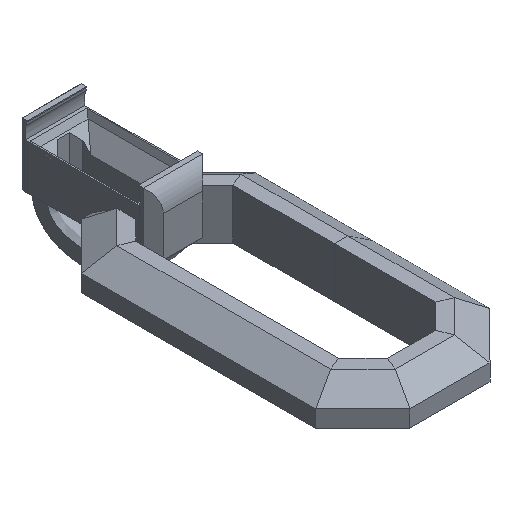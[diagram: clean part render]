
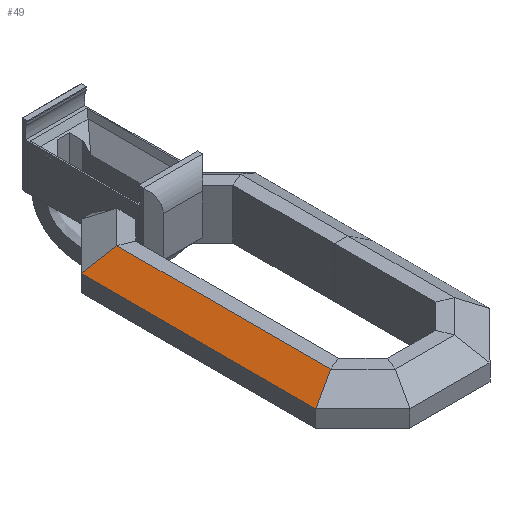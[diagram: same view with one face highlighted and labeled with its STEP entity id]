
A CAD part, isometric view. The second image highlights one B-rep face of the part: STEP entity #49.
In plain terms, the highlighted free-form (B-spline) face has degree [3, 1] with [4, 2] control points.
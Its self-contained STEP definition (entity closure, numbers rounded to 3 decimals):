
#49=ADVANCED_FACE('',(#195),#2193,.T.);
#195=FACE_OUTER_BOUND('',#341,.T.);
#341=EDGE_LOOP('',(#590,#591,#592,#593));
#590=ORIENTED_EDGE('',*,*,#1235,.F.);
#591=ORIENTED_EDGE('',*,*,#1244,.T.);
#592=ORIENTED_EDGE('',*,*,#1245,.T.);
#593=ORIENTED_EDGE('',*,*,#1246,.F.);
#1235=EDGE_CURVE('',#1927,#1928,#1610,.T.);
#1244=EDGE_CURVE('',#1927,#1932,#1619,.T.);
#1245=EDGE_CURVE('',#1932,#1933,#1620,.T.);
#1246=EDGE_CURVE('',#1928,#1933,#1621,.T.);
#1610=B_SPLINE_CURVE_WITH_KNOTS('',1,(#3979,#3980),.UNSPECIFIED.,.F.,.F.,
(2,2),(9.351,10.302),.UNSPECIFIED.);
#1619=B_SPLINE_CURVE_WITH_KNOTS('',3,(#4005,#4006,#4007,#4008),
 .UNSPECIFIED.,.F.,.F.,(4,4),(8.462,14.471),
 .UNSPECIFIED.);
#1620=B_SPLINE_CURVE_WITH_KNOTS('',1,(#4009,#4010),.UNSPECIFIED.,.F.,.F.,
(2,2),(9.351,10.302),.UNSPECIFIED.);
#1621=B_SPLINE_CURVE_WITH_KNOTS('',3,(#4011,#4012,#4013,#4014),
 .UNSPECIFIED.,.F.,.F.,(4,4),(8.462,14.471),
 .UNSPECIFIED.);
#1927=VERTEX_POINT('',#3624);
#1928=VERTEX_POINT('',#3625);
#1932=VERTEX_POINT('',#3629);
#1933=VERTEX_POINT('',#3630);
#2193=B_SPLINE_SURFACE_WITH_KNOTS('',3,1,((#2626,#2627),(#2628,#2629),(#2630,
#2631),(#2632,#2633)),.UNSPECIFIED.,.F.,.F.,.F.,(4,4),(2,2),(8.462,
14.471),(9.351,10.302),.UNSPECIFIED.);
#2626=CARTESIAN_POINT('',(-1.85,-8.37,0.027));
#2627=CARTESIAN_POINT('',(-2.6,-8.68,-0.473));
#2628=CARTESIAN_POINT('',(-1.85,-6.241,0.027));
#2629=CARTESIAN_POINT('',(-2.6,-6.344,-0.473));
#2630=CARTESIAN_POINT('',(-1.85,-4.112,0.027));
#2631=CARTESIAN_POINT('',(-2.6,-4.008,-0.473));
#2632=CARTESIAN_POINT('',(-1.85,-1.983,0.027));
#2633=CARTESIAN_POINT('',(-2.6,-1.672,-0.473));
#3624=CARTESIAN_POINT('',(-1.85,-8.37,0.027));
#3625=CARTESIAN_POINT('',(-2.6,-8.68,-0.473));
#3629=CARTESIAN_POINT('',(-1.85,-1.983,0.027));
#3630=CARTESIAN_POINT('',(-2.6,-1.672,-0.473));
#3979=CARTESIAN_POINT('',(-1.85,-8.37,0.027));
#3980=CARTESIAN_POINT('',(-2.6,-8.68,-0.473));
#4005=CARTESIAN_POINT('',(-1.85,-8.37,0.027));
#4006=CARTESIAN_POINT('',(-1.85,-6.241,0.027));
#4007=CARTESIAN_POINT('',(-1.85,-4.112,0.027));
#4008=CARTESIAN_POINT('',(-1.85,-1.983,0.027));
#4009=CARTESIAN_POINT('',(-1.85,-1.983,0.027));
#4010=CARTESIAN_POINT('',(-2.6,-1.672,-0.473));
#4011=CARTESIAN_POINT('',(-2.6,-8.68,-0.473));
#4012=CARTESIAN_POINT('',(-2.6,-6.344,-0.473));
#4013=CARTESIAN_POINT('',(-2.6,-4.008,-0.473));
#4014=CARTESIAN_POINT('',(-2.6,-1.672,-0.473));
